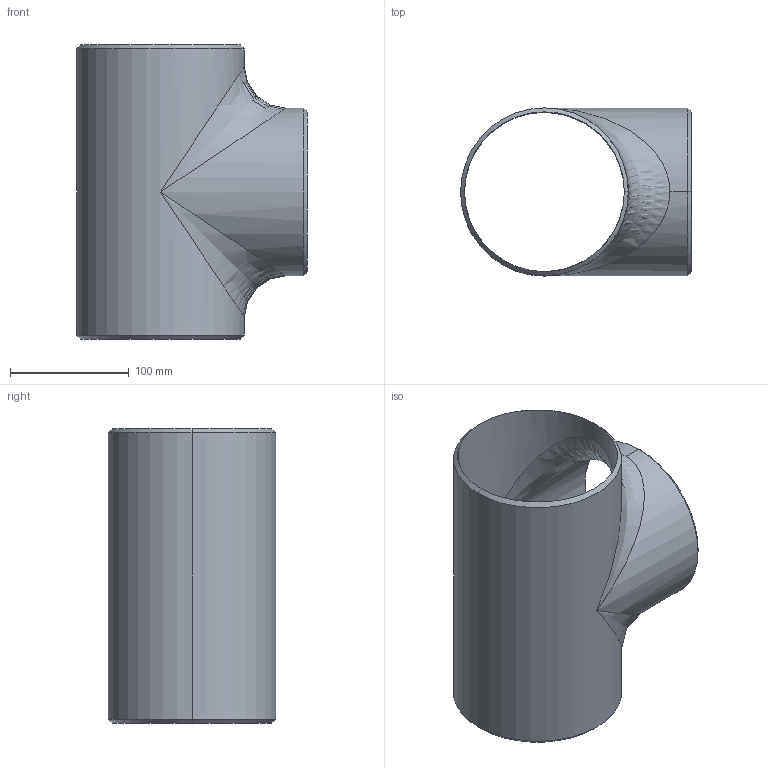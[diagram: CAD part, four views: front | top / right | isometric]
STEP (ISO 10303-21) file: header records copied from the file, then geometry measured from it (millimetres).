
FILE_DESCRIPTION (( 'STEP AP203' ), '1' );
FILE_NAME ('3D_R266_5x10S_173445230.STEP', '2024-08-23T11:16:19', ( '' ), ( '' ), 'SwSTEP 2.0', 'SolidWorks 2024', '' );
FILE_SCHEMA (( 'CONFIG_CONTROL_DESIGN' ));
Length unit declared in the file: millimetre
Products named in the file (1): 3D_R266_5x10S_173445230
Bounding box: 194.45 x 141.3 x 247.6 mm (x, y, z)
Volume: 403948.9 mm3; surface area: 243696.8 mm2
Topology: 1 solids, 1 shells, 21 faces, 58 edges, 30 vertices
Faces by surface type: cylinder 8, cone 6, bspline 4, plane 3
Entity records: 1387 total; most frequent: CARTESIAN_POINT 866, ORIENTED_EDGE 100, DIRECTION 88, EDGE_CURVE 50, AXIS2_PLACEMENT_3D 36, VERTEX_POINT 30, EDGE_LOOP 24, FACE_OUTER_BOUND 21
